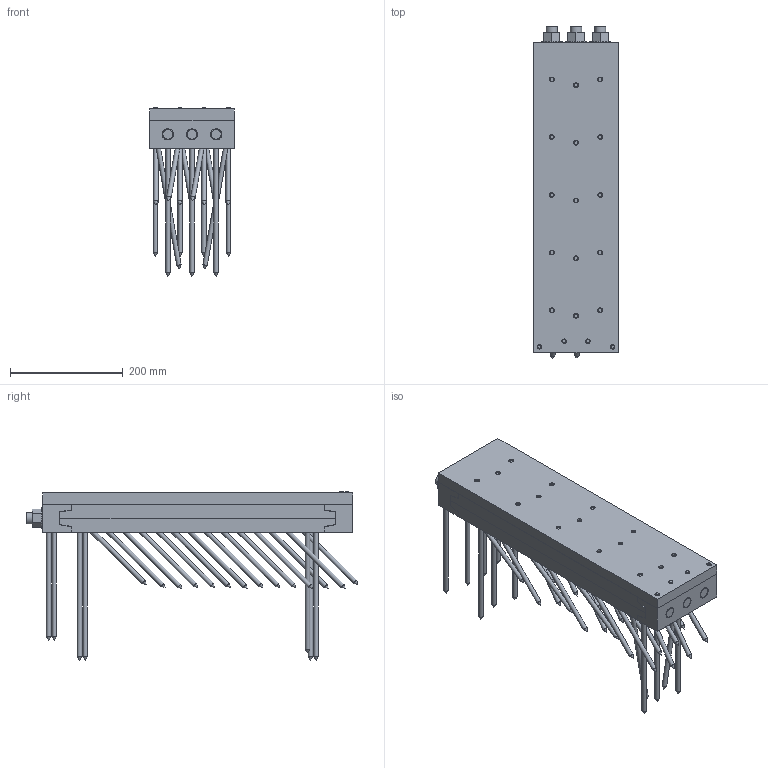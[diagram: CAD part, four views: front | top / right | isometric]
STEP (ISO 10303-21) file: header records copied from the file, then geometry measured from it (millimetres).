
FILE_DESCRIPTION(/* description */ ('Unknown'),/* implementation_level */ '2;1');
FILE_NAME(/* name */ 'MEGANT_550x150x50_Holz-Stahl-Anschluss_Sichtbar',/* time_stamp */ '2022-01-12T17:08:36+01:00',/* author */ ('Unknown'),/* organization */ ('Unknown'),/* preprocessor_version */ 'ST-DEVELOPER v16.7',/* originating_system */ 'Solid Edge',/* authorisation */ 'Unknown');
FILE_SCHEMA (('AUTOMOTIVE_DESIGN {1 0 10303 214 3 1 1}'));
Length unit declared in the file: millimetre
Products named in the file (18): MEGANT_550x150x50_Holz-Stahl-Anschluss_Sichtbar; Verbinderplatte_490x150x25_NT; SK_Schraube_8x240; Verbinderplatte_490x150x25; SK_Schraube_8x160; Verbinderplatte_490x150x25_HT_Stahl-Anschluss_15xM10x30 ; Verbinderplatte_490x150x25_Stahlanschluss_15xM10x30; SK_M10x30; Spannbacke_oben_150x50x50_NT; Spannbacke_oben_150x50x50; Gewindestange_M20_L580; Mutter_M20; Beilagscheibe_M20; Stahlplatte_150x550x20_15xM10_Bohrungen_4xM8; Spannbacke_unten_150x50x50_Stahl-Anschluss_4xSK_M8x70; Spannbacke_unten_150x50x50; SK_M8x70
Assembly tree (74 placements, depth 3):
  MEGANT_550x150x50_Holz-Stahl-Anschluss_Sichtbar
    Verbinderplatte_490x150x25_NT
      SK_Schraube_8x240  x8
      Verbinderplatte_490x150x25
      SK_Schraube_8x160  x28
    Verbinderplatte_490x150x25_HT_Stahl-Anschluss_15xM10x30 
      Verbinderplatte_490x150x25_Stahlanschluss_15xM10x30
      SK_M10x30  x15
    Spannbacke_oben_150x50x50_NT
      SK_Schraube_8x240  x4
      Spannbacke_oben_150x50x50
    Gewindestange_M20_L580  x3
      Gewindestange_M20_L580
      Mutter_M20
      Beilagscheibe_M20
    Stahlplatte_150x550x20_15xM10_Bohrungen_4xM8
    Spannbacke_unten_150x50x50_Stahl-Anschluss_4xSK_M8x70
      Spannbacke_unten_150x50x50
      SK_M8x70  x4
Bounding box: 150 x 589.49 x 299 mm (x, y, z)
Volume: 5736326.6 mm3; surface area: 1121976.5 mm2
Topology: 73 solids, 73 shells, 878 faces, 2069 edges, 1314 vertices
Faces by surface type: cylinder 364, plane 307, cone 207
Full cylindrical faces by diameter (mm): 6.647 x8, 8 x44, 8.3 x4, 8.376 x30, 8.5 x74, 10 x15, 10.2 x15, 14 x4, 15 x114, 17.294 x6, 20 x33, 21 x6, 37 x3
Entity records: 15628 total; most frequent: DIRECTION 2644, CARTESIAN_POINT 2357, ORIENTED_EDGE 1914, FACE_BOUND 1110, EDGE_LOOP 1108, AXIS2_PLACEMENT_3D 1078, EDGE_CURVE 957, VERTEX_POINT 791
